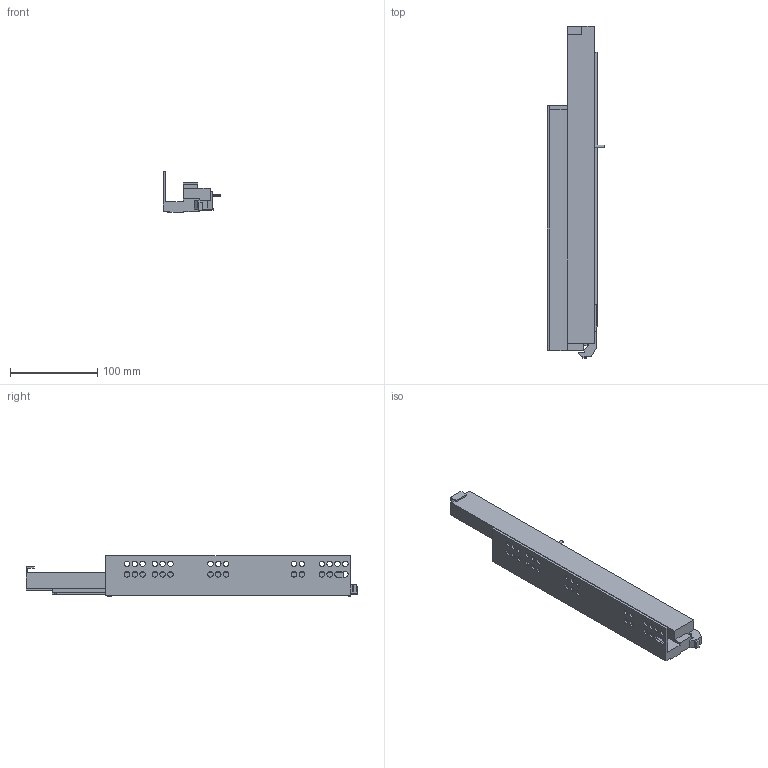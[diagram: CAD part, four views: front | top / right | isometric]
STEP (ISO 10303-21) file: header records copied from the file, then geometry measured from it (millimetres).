
FILE_DESCRIPTION (( 'STEP AP203' ), '1' );
FILE_NAME ('IMOS_Dynapro_Tipmatic_D51_NL_0_LI.STEP', '2013-03-22T12:14:43', ( 'Grass GmbH' ), ( 'Grass GmbH' ), 'SwSTEP 2.0', 'SolidWorks 2012', '' );
FILE_SCHEMA (( 'CONFIG_CONTROL_DESIGN' ));
Length unit declared in the file: millimetre
Products named in the file (1): IMOS_Dynapro_Tipmatic_D51_NL_0_LI
Bounding box: 65.92 x 381.55 x 47.53 mm (x, y, z)
Volume: 370476.2 mm3; surface area: 86738.3 mm2
Topology: 1 solids, 1 shells, 162 faces, 464 edges, 309 vertices
Faces by surface type: plane 97, cylinder 65
Entity records: 5503 total; most frequent: CARTESIAN_POINT 936, ORIENTED_EDGE 928, DIRECTION 920, EDGE_CURVE 464, LINE 334, VECTOR 334, VERTEX_POINT 309, AXIS2_PLACEMENT_3D 293
